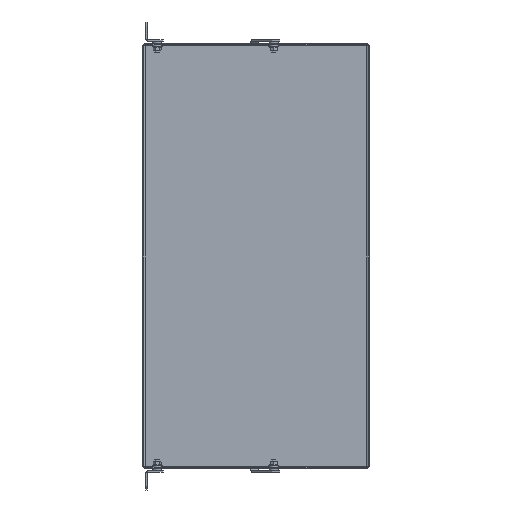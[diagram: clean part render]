
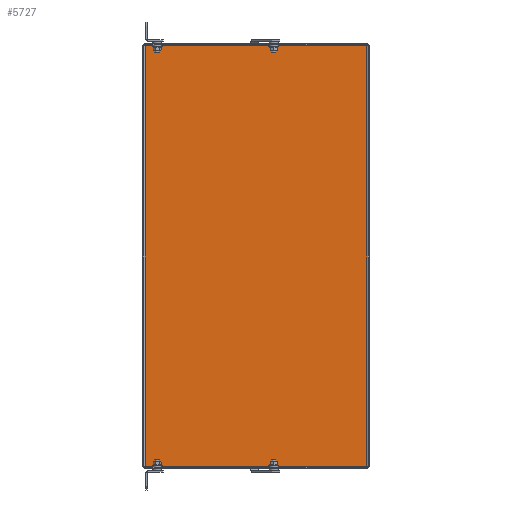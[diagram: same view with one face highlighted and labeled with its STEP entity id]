
A CAD part, front view. The second image highlights one B-rep face of the part: STEP entity #5727.
In plain terms, the highlighted planar face has unit normal (0.001, -1, 0).
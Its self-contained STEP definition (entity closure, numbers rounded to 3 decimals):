
#72 = AXIS2_PLACEMENT_3D ( 'NONE', #1778, #1784, #1785 ) ;
#1416 = VERTEX_POINT ( 'NONE', #4257 ) ;
#1513 = VERTEX_POINT ( 'NONE', #8444 ) ;
#1519 = VERTEX_POINT ( 'NONE', #8450 ) ;
#1524 = VERTEX_POINT ( 'NONE', #8455 ) ;
#1778 = CARTESIAN_POINT ( 'NONE',  ( 315.982, -68.608, 300. ) ) ;
#1782 = PLANE ( 'NONE',  #72 ) ;
#1784 = DIRECTION ( 'NONE',  ( -0.001, 1., 0. ) ) ;
#1785 = DIRECTION ( 'NONE',  ( 0., 0., -1. ) ) ;
#2270 = ORIENTED_EDGE ( 'NONE', *, *, #10679, .F. ) ;
#2271 = ORIENTED_EDGE ( 'NONE', *, *, #10678, .T. ) ;
#2272 = ORIENTED_EDGE ( 'NONE', *, *, #10676, .F. ) ;
#2273 = ORIENTED_EDGE ( 'NONE', *, *, #10677, .T. ) ;
#2510 = EDGE_LOOP ( 'NONE', ( #2270, #2271, #2272, #2273 ) ) ;
#3086 = LINE ( 'NONE', #3947, #3095 ) ;
#3089 = LINE ( 'NONE', #3933, #3091 ) ;
#3090 = LINE ( 'NONE', #3951, #3093 ) ;
#3091 = VECTOR ( 'NONE', #3941, 1000. ) ;
#3093 = VECTOR ( 'NONE', #3952, 1000. ) ;
#3094 = LINE ( 'NONE', #3954, #3097 ) ;
#3095 = VECTOR ( 'NONE', #3953, 1000. ) ;
#3097 = VECTOR ( 'NONE', #3955, 1000. ) ;
#3933 = CARTESIAN_POINT ( 'NONE',  ( -4.018, -68.919, 297.1 ) ) ;
#3941 = DIRECTION ( 'NONE',  ( 1., 0.001, 0. ) ) ;
#3947 = CARTESIAN_POINT ( 'NONE',  ( 312.982, -68.611, 300. ) ) ;
#3951 = CARTESIAN_POINT ( 'NONE',  ( -1.018, -68.917, -297.1 ) ) ;
#3952 = DIRECTION ( 'NONE',  ( 0., 0., -1. ) ) ;
#3953 = DIRECTION ( 'NONE',  ( 0., 0., 1. ) ) ;
#3954 = CARTESIAN_POINT ( 'NONE',  ( 313.082, -68.611, -297.1 ) ) ;
#3955 = DIRECTION ( 'NONE',  ( -1., -0.001, 0. ) ) ;
#4257 = CARTESIAN_POINT ( 'NONE',  ( 312.982, -68.611, -297.1 ) ) ;
#5727 = ADVANCED_FACE ( 'NONE', ( #6855 ), #1782, .F. ) ;
#6855 = FACE_OUTER_BOUND ( 'NONE', #2510, .T. ) ;
#8444 = CARTESIAN_POINT ( 'NONE',  ( -1.018, -68.917, -297.1 ) ) ;
#8450 = CARTESIAN_POINT ( 'NONE',  ( -1.018, -68.917, 297.1 ) ) ;
#8455 = CARTESIAN_POINT ( 'NONE',  ( 312.982, -68.611, 297.1 ) ) ;
#10676 = EDGE_CURVE ( 'NONE', #1519, #1524, #3089, .T. ) ;
#10677 = EDGE_CURVE ( 'NONE', #1519, #1513, #3090, .T. ) ;
#10678 = EDGE_CURVE ( 'NONE', #1416, #1524, #3086, .T. ) ;
#10679 = EDGE_CURVE ( 'NONE', #1416, #1513, #3094, .T. ) ;
